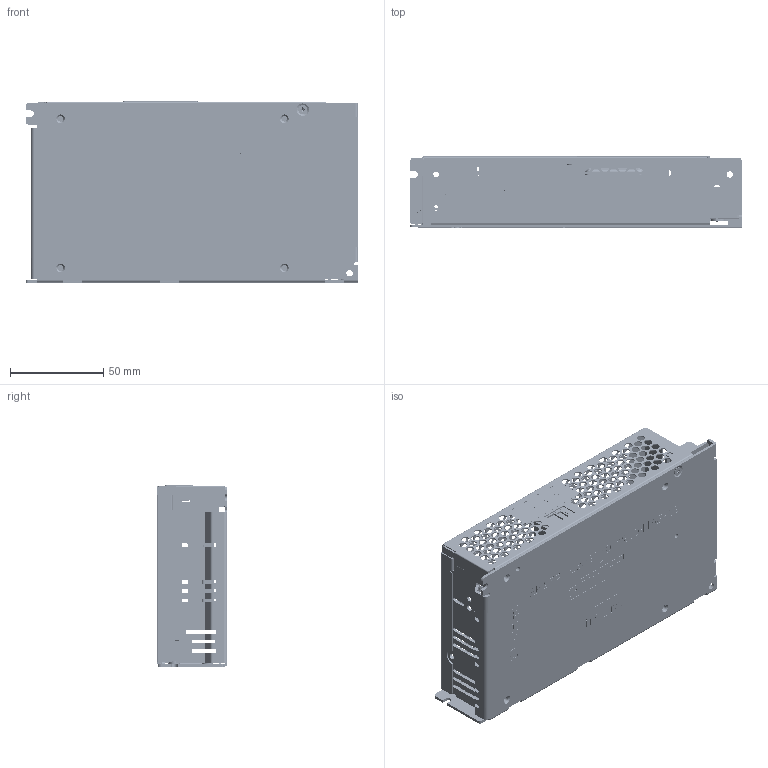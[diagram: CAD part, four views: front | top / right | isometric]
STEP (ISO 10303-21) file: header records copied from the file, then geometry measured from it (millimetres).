
FILE_DESCRIPTION((''),'2;1');
FILE_NAME('PMU-13V155WCBA_ASM','2016-12-29T',('warud'),(''),'PRO/ENGINEER BY PARAMETRIC TECHNOLOGY CORPORATION, 2010180','PRO/ENGINEER BY PARAMETRIC TECHNOLOGY CORPORATION, 2010180','');
FILE_SCHEMA(('CONFIG_CONTROL_DESIGN','SHAPE_APPEARANCE_LAYERS_GROUPS'));
Products named in the file (18): 330332620102_A_BODY_8; 330332620102_A_STUD_5; 330332620102_ASM_8_ASM; 330332640000_1; PWB_MAINBOARD_7; DCT-2454_2; EE_VR370_1; ASSY_DCT-2454_ASM_2_ASM; 307049757W_A_BODY_1; 307049757W_A_SCREW_1; 307049757W_ASM_1_ASM; 3000059426_SW1-1ST_1; ASSY_PWB-MAINBOARD_ASM_8_ASM; 3105469000_1; 3268095800_SPEC-LABEL_1; 326364330000_FRONT-LABEL_1; 326208210206_WARNING-LABEL_1; PMU-13V155WCBA_ASM
Assembly tree (24 placements, depth 4):
  PMU-13V155WCBA_ASM
    330332620102_ASM_8_ASM
      330332620102_A_BODY_8
      330332620102_A_STUD_5  x2
    330332640000_1
    ASSY_PWB-MAINBOARD_ASM_8_ASM
      PWB_MAINBOARD_7
      ASSY_DCT-2454_ASM_2_ASM
        DCT-2454_2
        EE_VR370_1
      307049757W_ASM_1_ASM
        307049757W_A_BODY_1
        307049757W_A_SCREW_1  x7
      3000059426_SW1-1ST_1
    3105469000_1
    3268095800_SPEC-LABEL_1
    326364330000_FRONT-LABEL_1
    326208210206_WARNING-LABEL_1
Bounding box: 178 x 38.05 x 97.15 mm (x, y, z)
Volume: 88318.4 mm3; surface area: 141132.3 mm2
Topology: 20 solids, 20 shells, 4786 faces, 13247 edges, 8618 vertices
Faces by surface type: plane 2281, cylinder 1777, extrusion 509, bspline 105, cone 82, torus 32
Entity records: 161784 total; most frequent: CARTESIAN_POINT 28700, ORIENTED_EDGE 23034, DIRECTION 21862, EDGE_CURVE 11517, VERTEX_POINT 7586, VECTOR 7382, PRESENTATION_STYLE_ASSIGNMENT 7340, AXIS2_PLACEMENT_3D 7240
